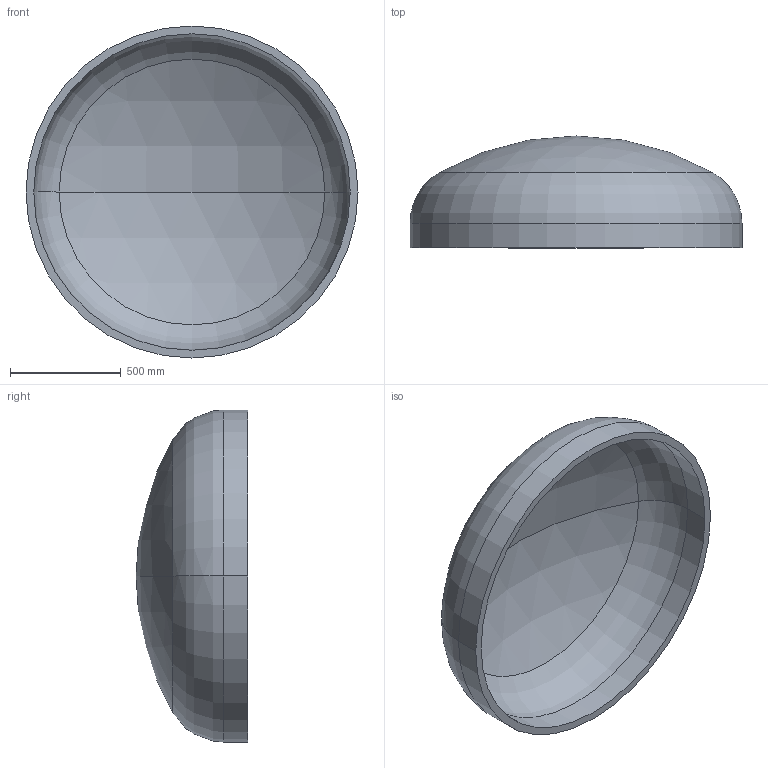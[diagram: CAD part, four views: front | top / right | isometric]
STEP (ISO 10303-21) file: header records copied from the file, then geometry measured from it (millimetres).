
FILE_DESCRIPTION (( 'STEP AP203' ), '1' );
FILE_NAME ('DIN 28013 Korbbogenform_-_Boden DIN 28013 - 1500 x 110 - I - s=35.step', '2016-07-01T10:43:57', ( '' ), ( '' ), 'SwSTEP 2.0', 'SolidWorks 2013', '' );
FILE_SCHEMA (( 'CONFIG_CONTROL_DESIGN' ));
Length unit declared in the file: millimetre
Products named in the file (1): DIN 28013 Korbbogenform_-_Boden DIN 28013 - 1500 x 110 - I - s=35
Bounding box: 1500 x 504.96 x 1500 mm (x, y, z)
Volume: 100724019.1 mm3; surface area: 5919307.3 mm2
Topology: 1 solids, 1 shells, 13 faces, 24 edges, 14 vertices
Faces by surface type: torus 4, cylinder 4, sphere 4, plane 1
Entity records: 407 total; most frequent: DIRECTION 72, CARTESIAN_POINT 52, ORIENTED_EDGE 48, AXIS2_PLACEMENT_3D 34, EDGE_CURVE 24, CIRCLE 20, EDGE_LOOP 14, VERTEX_POINT 14
